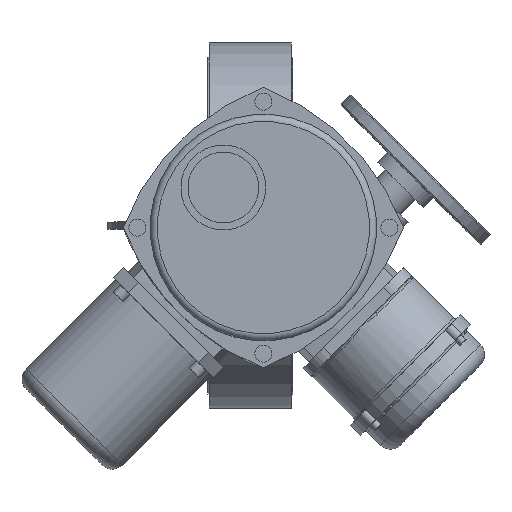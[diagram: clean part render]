
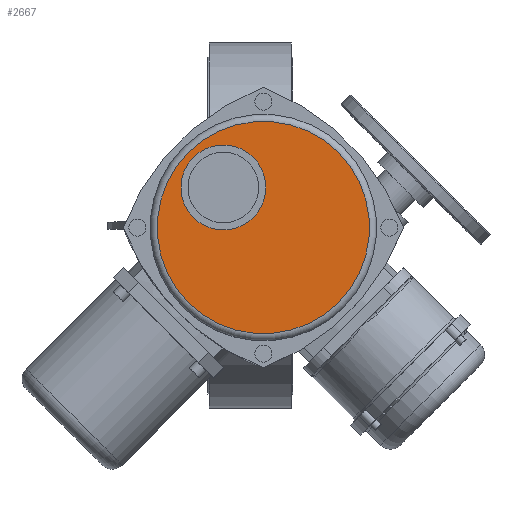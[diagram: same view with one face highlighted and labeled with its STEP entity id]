
A CAD part, top view. The second image highlights one B-rep face of the part: STEP entity #2667.
In plain terms, the highlighted planar face has unit normal (0, 0, 1).
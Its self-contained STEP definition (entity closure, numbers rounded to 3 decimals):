
#2667=ADVANCED_FACE('',(#5619,#5621),#5623,.T.);
#5619=FACE_BOUND('',#5620,.T.);
#5620=EDGE_LOOP('',(#7044));
#5621=FACE_BOUND('',#5622,.T.);
#5622=EDGE_LOOP('',(#7045));
#5623=PLANE('',#5624);
#5624=AXIS2_PLACEMENT_3D('',#5625,#5626,#5627);
#5625=CARTESIAN_POINT('',(9.192,-2.121,435.));
#5626=DIRECTION('',(0.,0.,1.));
#5627=DIRECTION('',(0.707,0.707,0.));
#7044=ORIENTED_EDGE('',*,*,#7680,.T.);
#7045=ORIENTED_EDGE('',*,*,#7723,.F.);
#7680=EDGE_CURVE('',#8754,#8754,#8755,.T.);
#7723=EDGE_CURVE('',#8822,#8822,#8823,.T.);
#8754=VERTEX_POINT('',#13535);
#8755=CIRCLE('',#13536,75.);
#8822=VERTEX_POINT('',#13728);
#8823=CIRCLE('',#13729,30.);
#13535=CARTESIAN_POINT('',(62.225,50.912,435.));
#13536=AXIS2_PLACEMENT_3D('',#13537,#13538,#13539);
#13537=CARTESIAN_POINT('',(9.192,-2.121,435.));
#13538=DIRECTION('',(0.,0.,1.));
#13539=DIRECTION('',(0.707,0.707,0.));
#13728=CARTESIAN_POINT('',(2.121,47.376,435.));
#13729=AXIS2_PLACEMENT_3D('',#13730,#13731,#13732);
#13730=CARTESIAN_POINT('',(-19.092,26.163,435.));
#13731=DIRECTION('',(0.,0.,1.));
#13732=DIRECTION('',(0.707,0.707,0.));
